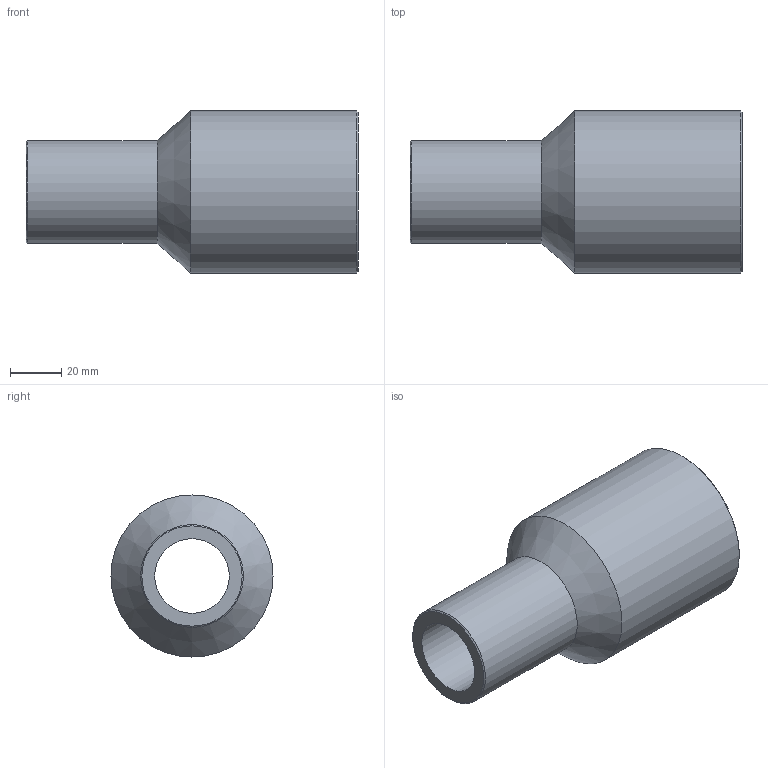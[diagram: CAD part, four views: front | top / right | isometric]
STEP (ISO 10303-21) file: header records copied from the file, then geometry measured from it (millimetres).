
FILE_DESCRIPTION(/* description */ ('Unknown'),/* implementation_level */ '2;1');
FILE_NAME(/* name */ 'RP063040H',/* time_stamp */ '2021-09-16T11:27:24+02:00',/* author */ ('Unknown'),/* organization */ ('Unknown'),/* preprocessor_version */ 'ST-DEVELOPER v16.7',/* originating_system */ 'Solid Edge',/* authorisation */ 'Unknown');
FILE_SCHEMA (('AUTOMOTIVE_DESIGN {1 0 10303 214 3 1 1}'));
Length unit declared in the file: millimetre
Products named in the file (1): RP063040H
Bounding box: 129 x 63 x 63 mm (x, y, z)
Volume: 145887.3 mm3; surface area: 39466.7 mm2
Topology: 1 solids, 1 shells, 10 faces, 19 edges, 11 vertices
Faces by surface type: cylinder 4, cone 4, plane 2
Full cylindrical faces by diameter (mm): 29 x1, 40 x1, 45.8 x1, 63 x1
Entity records: 238 total; most frequent: DIRECTION 42, CARTESIAN_POINT 31, AXIS2_PLACEMENT_3D 21, ORIENTED_EDGE 20, EDGE_LOOP 20, FACE_BOUND 20, EDGE_CURVE 10, VERTEX_POINT 10
